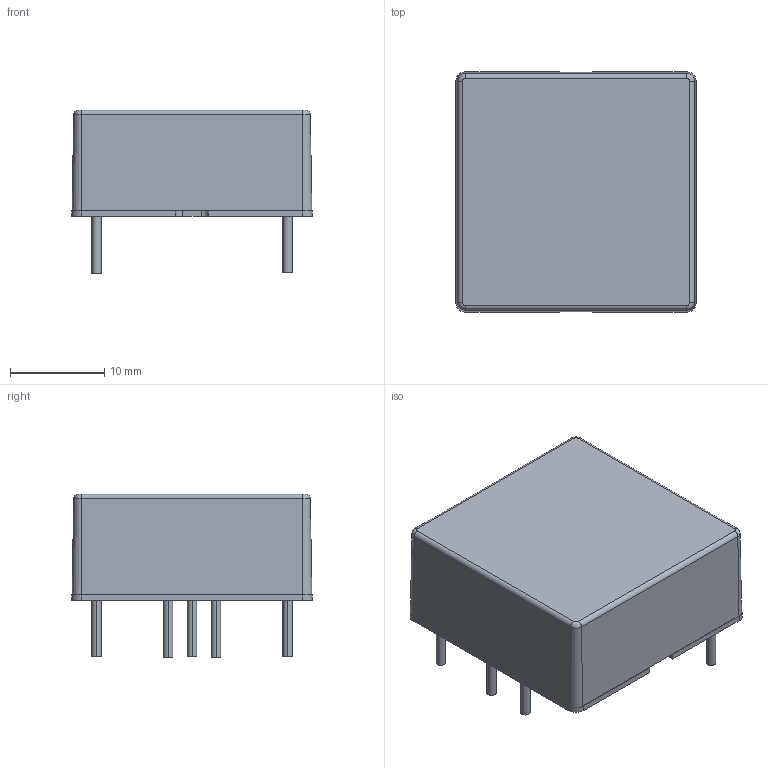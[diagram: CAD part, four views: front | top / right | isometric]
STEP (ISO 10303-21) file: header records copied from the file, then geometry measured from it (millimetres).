
FILE_DESCRIPTION (( 'STEP AP203' ), '1' );
FILE_NAME ('MJWI40 3D(113.9.12).STEP', '2024-10-22T07:44:52', ( '' ), ( '' ), 'SwSTEP 2.0', 'SolidWorks 2021', '' );
FILE_SCHEMA (( 'CONFIG_CONTROL_DESIGN' ));
Length unit declared in the file: millimetre
Products named in the file (1): MJWI40 3D(113.9.12)
Bounding box: 25.6 x 25.6 x 17.4 mm (x, y, z)
Volume: 7639.7 mm3; surface area: 3891.2 mm2
Topology: 2 solids, 2 shells, 87 faces, 220 edges, 144 vertices
Faces by surface type: cylinder 40, plane 39, cone 4, torus 4
Entity records: 2741 total; most frequent: DIRECTION 488, CARTESIAN_POINT 452, ORIENTED_EDGE 440, EDGE_CURVE 220, AXIS2_PLACEMENT_3D 180, VERTEX_POINT 144, VECTOR 128, LINE 128
